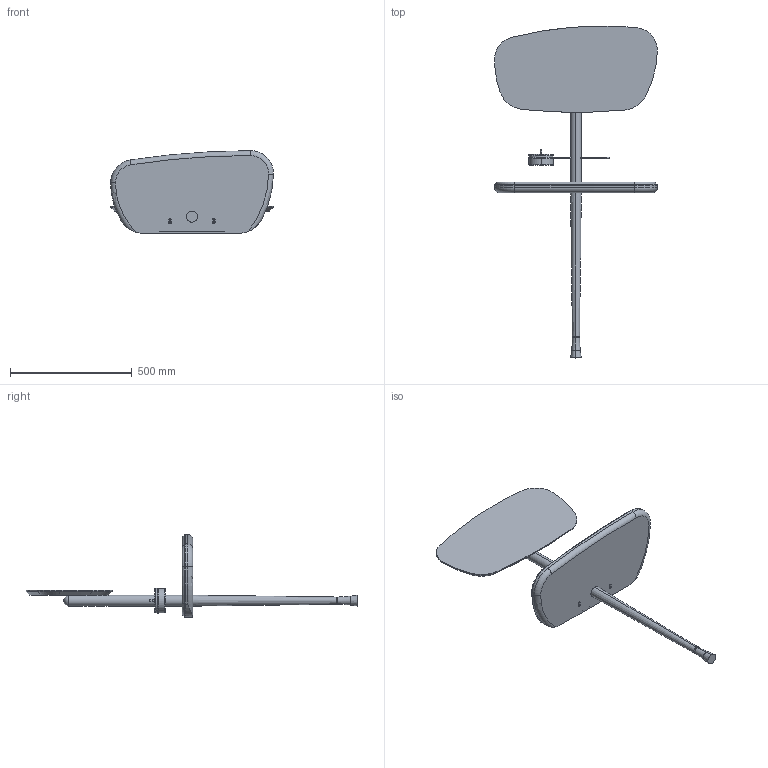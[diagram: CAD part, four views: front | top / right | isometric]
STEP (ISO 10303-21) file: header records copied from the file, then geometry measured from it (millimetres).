
FILE_DESCRIPTION (( 'STEP AP203' ), '1' );
FILE_NAME ('TOCADOR_MARMOL.STEP', '2017-05-05T11:12:53', ( 'Usuario' ), ( '' ), 'SwSTEP 2.0', 'SolidWorks 2016', '' );
FILE_SCHEMA (( 'CONFIG_CONTROL_DESIGN' ));
Length unit declared in the file: millimetre
Products named in the file (16): 6_ESPEJO; 3_ANCLAJE_PARED; TOCADOR_MARMOL; ESPARRAGO_M10; 1_PALO_BASE_T; 9_VARILLA_LATÓN; 5_SOPORTE_ESPEJO; 4_PALO_ESPEJO_T; 8_TAPA_CAJA; 10_EMBELLECEDOR; 2_REPISA_NOGAL; PLACA MARMOL REDONDEO 5; TAPA_NOGAL; 7_CAJA_NOGAL; TORNILLO_ALLEN; ESPEJO
Assembly tree (18 placements, depth 3):
  TOCADOR_MARMOL
    1_PALO_BASE_T
    2_REPISA_NOGAL
    ESPARRAGO_M10
    3_ANCLAJE_PARED
    4_PALO_ESPEJO_T
    5_SOPORTE_ESPEJO
    9_VARILLA_LATÓN
    7_CAJA_NOGAL
    8_TAPA_CAJA
      TAPA_NOGAL
      ESPEJO
    10_EMBELLECEDOR  x3
    6_ESPEJO
    TORNILLO_ALLEN  x2
    PLACA MARMOL REDONDEO 5
Bounding box: 670.55 x 1365.61 x 340 mm (x, y, z)
Volume: 13979618.1 mm3; surface area: 1998902.4 mm2
Topology: 17 solids, 17 shells, 329 faces, 761 edges, 482 vertices
Faces by surface type: cylinder 148, plane 99, torus 60, cone 21, sphere 1
Entity records: 11479 total; most frequent: CARTESIAN_POINT 2434, DIRECTION 1696, ORIENTED_EDGE 1408, AXIS2_PLACEMENT_3D 715, EDGE_CURVE 704, VERTEX_POINT 444, CIRCLE 392, EDGE_LOOP 356
